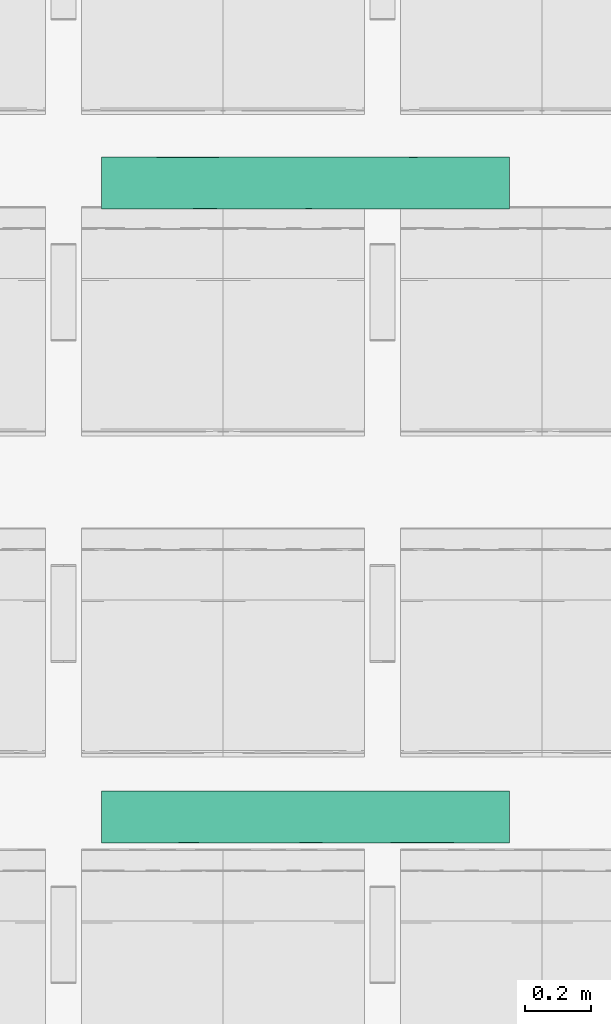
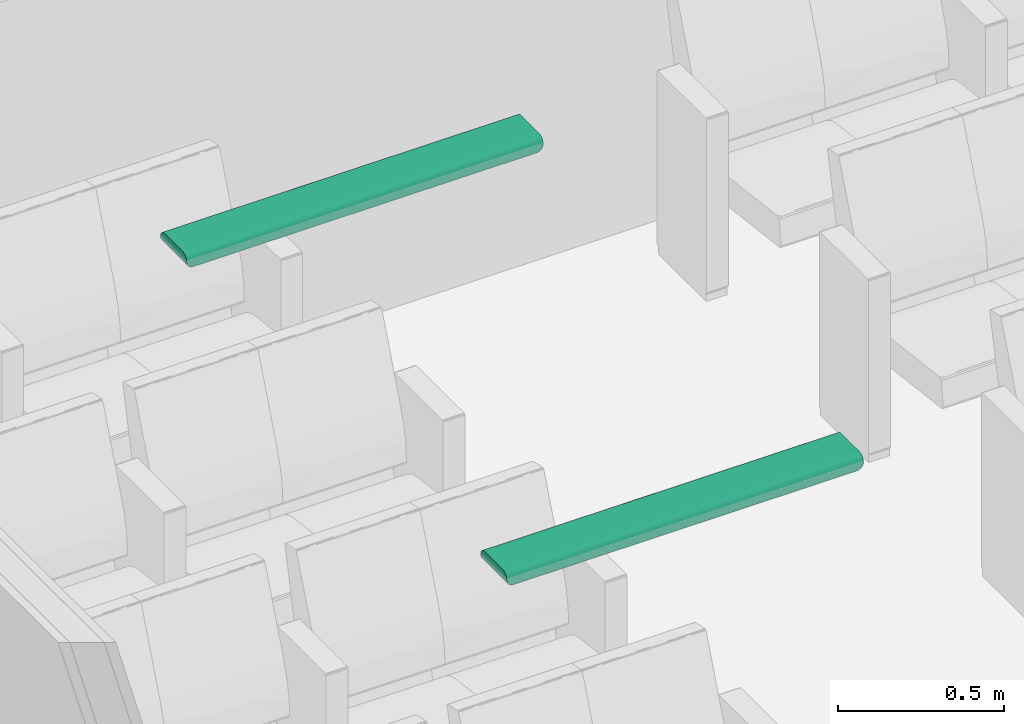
# One storey, part 60 of 155: 2 flow terminals.
"""IFC2X3 building model written with IfcOpenShell, lengths in metres."""

from ifc_helpers import new_model, entity, si_unit, converted_unit, derived_unit, direction, frame, origin, place, context, subcontext, project, spatial, faceted_brep, source, transform, mapped, material, material_list, type_object, type_shapes, element, save


model = new_model("IFC2X3")

# Units and contexts
model_context = context("Model", 3, precision=1e-05, world=origin(), true_north=direction((6.12303176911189e-17, 1.0)))
body_context = subcontext(model_context, "Body", "Model", "MODEL_VIEW")
ifc_project = project(units=[si_unit("LENGTHUNIT", "METRE"), si_unit("AREAUNIT", "SQUARE_METRE"), si_unit("VOLUMEUNIT", "CUBIC_METRE"), converted_unit("PLANEANGLEUNIT", "DEGREE", entity("IfcRatioMeasure", 0.0174532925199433), si_unit("PLANEANGLEUNIT", "RADIAN"), dimensions=[0, 0, 0, 0, 0, 0, 0]), si_unit("MASSUNIT", "GRAM", prefix="KILO"), derived_unit("MASSDENSITYUNIT", [(si_unit("MASSUNIT", "GRAM", prefix="KILO"), 1), (si_unit("LENGTHUNIT", "METRE"), -3)]), si_unit("TIMEUNIT", "SECOND"), si_unit("FREQUENCYUNIT", "HERTZ"), si_unit("THERMODYNAMICTEMPERATUREUNIT", "DEGREE_CELSIUS"), derived_unit("THERMALTRANSMITTANCEUNIT", [(si_unit("MASSUNIT", "GRAM", prefix="KILO"), 1), (si_unit("THERMODYNAMICTEMPERATUREUNIT", "KELVIN"), -1), (si_unit("TIMEUNIT", "SECOND"), -3)]), derived_unit("VOLUMETRICFLOWRATEUNIT", [(si_unit("LENGTHUNIT", "METRE"), 3), (si_unit("TIMEUNIT", "SECOND"), -1)]), si_unit("ELECTRICCURRENTUNIT", "AMPERE"), si_unit("ELECTRICVOLTAGEUNIT", "VOLT"), si_unit("POWERUNIT", "WATT"), si_unit("FORCEUNIT", "NEWTON", prefix="KILO"), si_unit("ILLUMINANCEUNIT", "LUX"), si_unit("LUMINOUSFLUXUNIT", "LUMEN"), si_unit("LUMINOUSINTENSITYUNIT", "CANDELA"), derived_unit("USERDEFINED", [(si_unit("MASSUNIT", "GRAM", prefix="KILO"), -1), (si_unit("LENGTHUNIT", "METRE"), -2), (si_unit("TIMEUNIT", "SECOND"), 3), (si_unit("LUMINOUSFLUXUNIT", "LUMEN"), 1)]), derived_unit("LINEARVELOCITYUNIT", [(si_unit("LENGTHUNIT", "METRE"), 1), (si_unit("TIMEUNIT", "SECOND"), -1)]), si_unit("PRESSUREUNIT", "PASCAL"), derived_unit("USERDEFINED", [(si_unit("LENGTHUNIT", "METRE"), -2), (si_unit("MASSUNIT", "GRAM", prefix="KILO"), 1), (si_unit("TIMEUNIT", "SECOND"), -2)])], contexts=[model_context])

# Site, building, storey, space
site_placement = place(None, frame((26.9889013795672, -17.5624287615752, 0.0)))
site = spatial("IfcSite", under=ifc_project, at=site_placement, Name="Default", CompositionType="ELEMENT")
building_placement = place(site_placement, origin())
building = spatial("IfcBuilding", under=site, at=building_placement, Name="C. C. L. Monsenhor Antônio Sampaio", CompositionType="ELEMENT")
storey_placement = place(building_placement, frame((0.0, 0.0, 1.19999999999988)))
storey = spatial("IfcBuildingStorey", under=building, at=storey_placement, Name="Nível 1.2", CompositionType="ELEMENT", Elevation=1.19999999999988)
space_placement = place(storey_placement, origin())
space = spatial("IfcSpace", under=storey, at=space_placement, Name="94", CompositionType="ELEMENT", InteriorOrExteriorSpace="INTERNAL")

# Flow terminals
ifc_material_1 = material(Name="glass - blue - t85")
ifc_material_2 = material(Name="metal - aluminium")
ifc_material_list_1 = material_list([ifc_material_1, ifc_material_2])
ifc_material_list_2 = material_list([ifc_material_1, ifc_material_2])
light_fixture_type = type_object("IfcLightFixtureType", Name="BCS460 W16L124 1xLED24/840 MLO-PC", PredefinedType="NOTDEFINED", material=ifc_material_list_2)
shared_shape = source(origin(), body_context, "Body", "Brep", [
    faceted_brep([(0.585000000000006, 0.0435000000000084, -0.0460000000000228), (0.585000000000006, -0.0434999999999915, -0.0460000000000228), (0.585000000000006, -0.0434999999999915, -0.0490000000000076), (0.585000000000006, 0.0435000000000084, -0.0490000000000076), (-0.584999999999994, 0.0435000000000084, -0.0460000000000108), (-0.584999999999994, 0.0435000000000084, -0.0489999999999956), (-0.584999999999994, -0.0434999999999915, -0.0489999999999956), (-0.584999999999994, -0.0434999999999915, -0.0460000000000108)], [[[0, 1, 2, 3]], [[4, 5, 6, 7]], [[3, 5, 4, 0]], [[2, 6, 5, 3]], [[1, 7, 6, 2]], [[0, 4, 7, 1]]]),
    faceted_brep([(-0.584999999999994, -0.0434999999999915, -0.0489999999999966), (0.585000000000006, -0.0434999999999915, -0.0490000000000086), (0.585000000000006, -0.0554999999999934, -0.0490000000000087), (0.417543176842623, -0.0554999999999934, -0.0490000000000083), (0.334912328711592, -0.0554999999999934, -0.0490000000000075), (0.209867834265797, -0.0554999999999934, -0.0490000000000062), (0.0848246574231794, -0.0554999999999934, -0.0490000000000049), (-0.0826321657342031, -0.0554999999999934, -0.0490000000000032), (-0.250087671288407, -0.0554999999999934, -0.0490000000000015), (-0.417543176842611, -0.0554999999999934, -0.0489999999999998), (-0.584999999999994, -0.0554999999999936, -0.0489999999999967), (-0.584999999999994, 0.0435000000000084, -0.0489999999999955), (-0.584999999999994, 0.0555000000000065, -0.0489999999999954), (-0.417543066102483, 0.0555000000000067, -0.0489999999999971), (-0.334913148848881, 0.0555000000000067, -0.048999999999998), (-0.209868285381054, 0.0555000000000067, -0.0489999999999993), (-0.0848248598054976, 0.0555000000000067, -0.0490000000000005), (0.0826306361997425, 0.0555000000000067, -0.0490000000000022), (0.250087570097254, 0.0555000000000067, -0.049000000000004), (0.417544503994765, 0.0555000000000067, -0.0490000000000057), (0.585000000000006, 0.0555000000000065, -0.0490000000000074), (0.585000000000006, 0.0435000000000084, -0.0490000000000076), (0.585000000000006, -0.0434999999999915, -0.0190000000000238), (0.585000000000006, 0.0435000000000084, -0.0190000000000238), (0.585000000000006, 0.0614528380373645, -0.0482162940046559), (0.585000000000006, 0.0670000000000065, -0.0459185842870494), (0.585000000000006, 0.0717634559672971, -0.0422634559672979), (0.585000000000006, 0.0754185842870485, -0.0375000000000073), (0.585000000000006, 0.077716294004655, -0.0319528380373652), (0.585000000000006, 0.0785000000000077, -0.0260000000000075), (0.585000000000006, 0.0785000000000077, 0.0), (0.585000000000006, -0.0784999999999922, 0.0), (0.585000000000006, -0.0784999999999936, -0.02600000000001), (0.585000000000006, -0.0777162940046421, -0.031952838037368), (0.585000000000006, -0.0754185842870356, -0.03750000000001), (0.585000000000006, -0.0717634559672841, -0.0422634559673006), (0.585000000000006, -0.0669999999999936, -0.0459185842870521), (0.585000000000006, -0.0614528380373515, -0.0482162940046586), (-0.584999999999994, 0.0435000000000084, -0.0190000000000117), (-0.584999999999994, -0.0434999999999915, -0.0190000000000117), (-0.584999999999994, -0.0614528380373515, -0.0482162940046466), (-0.584999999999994, -0.0669999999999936, -0.0459185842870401), (-0.584999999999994, -0.0717634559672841, -0.0422634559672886), (-0.584999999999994, -0.0754185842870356, -0.037499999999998), (-0.584999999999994, -0.0777162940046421, -0.031952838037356), (-0.584999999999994, -0.0784999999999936, -0.025999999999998), (-0.584999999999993, -0.0784999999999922, 0.0), (-0.584999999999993, 0.0785000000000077, 0.0), (-0.584999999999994, 0.0785000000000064, -0.0259999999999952), (-0.584999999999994, 0.077716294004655, -0.0319528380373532), (-0.584999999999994, 0.0754185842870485, -0.0374999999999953), (-0.584999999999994, 0.0717634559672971, -0.0422634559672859), (-0.584999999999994, 0.0670000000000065, -0.0459185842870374), (-0.584999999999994, 0.0614528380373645, -0.0482162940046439), (0.417543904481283, 0.0785000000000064, -0.0260000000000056), (0.334912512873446, 0.0785000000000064, -0.0260000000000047), (0.209868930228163, 0.0785000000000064, -0.0260000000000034), (0.0848250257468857, 0.0785000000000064, -0.0260000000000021), (-0.0826310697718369, 0.0785000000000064, -0.0260000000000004), (-0.250087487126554, 0.0785000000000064, -0.0259999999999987), (-0.417543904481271, 0.0785000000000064, -0.025999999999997), (-0.430283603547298, 0.073747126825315, -0.0400015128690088), (-0.39346878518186, 0.069501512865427, -0.0442471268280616), (-0.441987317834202, 0.0643017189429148, -0.0472492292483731), (-0.435801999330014, 0.0759760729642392, -0.0364752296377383), (0.43028360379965, 0.0695015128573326, -0.0442471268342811), (0.393468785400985, 0.0737471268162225, -0.0400015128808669), (-0.166359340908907, 0.0777768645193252, -0.0317220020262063), (-0.333815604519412, 0.078144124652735, -0.0300303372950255), (0.441987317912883, 0.0767492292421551, -0.0348017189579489), (0.376228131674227, 0.0780233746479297, -0.0306580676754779), (-0.0103058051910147, 0.0779837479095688, -0.0308457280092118), (0.147346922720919, 0.0778835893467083, -0.0312891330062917), (0.0846877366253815, 0.0752228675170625, -0.0378325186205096), (0.113930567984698, 0.0669406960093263, -0.0459527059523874), (0.259392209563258, 0.0628104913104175, -0.0478072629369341), (0.138751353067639, 0.0626656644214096, -0.0478552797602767), (-0.327642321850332, 0.0767492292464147, -0.0348017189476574), (-0.44845841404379, 0.0775260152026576, -0.0326222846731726), (0.274715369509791, 0.0767492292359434, -0.0348017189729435), (0.37104983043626, 0.0643017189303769, -0.0472492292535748), (0.333815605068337, 0.0596187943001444, -0.0486282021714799), (0.0893720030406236, 0.0707479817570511, -0.0432191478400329), (-0.0153938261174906, 0.0683034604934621, -0.0451068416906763), (-0.376228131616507, 0.0601580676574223, -0.0485233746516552), (0.0434325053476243, 0.059742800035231, -0.048605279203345), (0.218757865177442, 0.0695015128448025, -0.0442471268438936), (0.464656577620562, 0.0597129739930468, -0.0486108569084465), (0.199843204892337, 0.0732493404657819, -0.0406274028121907), (-0.274715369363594, 0.0643017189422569, -0.0472492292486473), (-0.115235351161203, 0.073747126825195, -0.0400015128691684), (-0.150791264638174, 0.070206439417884, -0.0436839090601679), (-0.272759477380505, 0.0724713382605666, -0.0415233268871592), (-0.00814072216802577, 0.0636892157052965, -0.0474927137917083), (-0.14734692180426, 0.0607891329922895, -0.0483835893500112), (-0.269938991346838, 0.0692956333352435, -0.0444032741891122), (-0.201904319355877, 0.0758204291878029, -0.0367740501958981), (-0.0663340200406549, 0.0763921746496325, -0.0356185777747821), (-0.139314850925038, 0.066006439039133, -0.046460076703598), (-0.430283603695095, -0.0695015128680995, -0.0442471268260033), (-0.393468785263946, -0.073747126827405, -0.0400015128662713), (-0.44198731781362, -0.0767492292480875, -0.0348017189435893), (-0.435801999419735, -0.06597522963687, -0.0464760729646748), (0.430283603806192, -0.0737471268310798, -0.0400015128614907), (0.393468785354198, -0.0695015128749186, -0.0442471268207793), (-0.166359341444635, -0.061222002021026, -0.0482768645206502), (-0.333815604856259, -0.0595303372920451, -0.0486441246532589), (0.441987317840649, -0.0643017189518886, -0.0472492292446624), (0.37622813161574, -0.0601580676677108, -0.0485233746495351), (-0.0103058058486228, -0.0603457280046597, -0.0484837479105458), (0.147346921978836, -0.0607891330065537, -0.0483835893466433), (0.0846877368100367, -0.0673325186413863, -0.0457228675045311), (0.113930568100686, -0.0754527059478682, -0.0374406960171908), (0.259392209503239, -0.0773072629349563, -0.0333104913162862), (0.138751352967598, -0.0773552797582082, -0.0331656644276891), (-0.327642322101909, -0.0643017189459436, -0.047249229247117), (-0.448458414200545, -0.062122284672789, -0.048026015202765), (-0.417543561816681, -0.0784999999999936, -0.0259999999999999), (0.274715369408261, -0.0643017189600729, -0.0472492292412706), (0.371049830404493, -0.0767492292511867, -0.0348017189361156), (0.333815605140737, -0.0781282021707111, -0.0301187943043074), (0.250087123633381, -0.0784999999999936, -0.0260000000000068), (0.0893720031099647, -0.0727191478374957, -0.041247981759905), (-0.0153938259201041, -0.074606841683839, -0.0388034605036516), (-0.376228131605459, -0.0780233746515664, -0.0306580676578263), (0.0826306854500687, -0.0784999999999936, -0.026000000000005), (-0.0848257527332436, -0.0784999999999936, -0.0260000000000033), (0.0434325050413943, -0.0781052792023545, -0.030242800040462), (0.417543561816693, -0.0784999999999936, -0.0260000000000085), (0.21875786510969, -0.0737471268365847, -0.0400015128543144), (0.464656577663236, -0.0781108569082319, -0.0302129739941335), (0.19984320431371, -0.0701274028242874, -0.0437493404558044), (-0.274715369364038, -0.0767492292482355, -0.0348017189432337), (-0.115235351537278, -0.0695015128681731, -0.0442471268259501), (-0.150791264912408, -0.0731839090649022, -0.0407064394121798), (-0.209869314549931, -0.0784999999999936, -0.026000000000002), (-0.334912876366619, -0.0784999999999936, -0.0260000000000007), (-0.272759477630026, -0.071023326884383, -0.0429713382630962), (-0.00814072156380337, -0.0769927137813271, -0.0341892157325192), (-0.147346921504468, -0.0778835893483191, -0.03128913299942), (-0.269938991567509, -0.0739032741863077, -0.0397956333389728), (-0.201904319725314, -0.0662740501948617, -0.0463204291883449), (-0.0663340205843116, -0.0651185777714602, -0.0468921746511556), (-0.139314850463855, -0.0759600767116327, -0.0365064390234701)], [[[0, 1, 2, 3, 4, 5, 6, 7, 8, 9, 10]], [[11, 12, 13, 14, 15, 16, 17, 18, 19, 20, 21]], [[22, 23, 21, 20, 24, 25, 26, 27, 28, 29, 30, 31, 32, 33, 34, 35, 36, 37, 2, 1]], [[12, 11, 38, 39, 0, 10, 40, 41, 42, 43, 44, 45, 46, 47, 48, 49, 50, 51, 52, 53]], [[47, 30, 29, 54, 55, 56, 57, 58, 59, 60, 48]], [[61, 51, 50]], [[62, 51, 61]], [[51, 62, 52]], [[62, 63, 52]], [[63, 53, 52]], [[61, 50, 64]], [[26, 65, 66]], [[26, 25, 65]], [[54, 29, 28]], [[67, 68, 59]], [[69, 70, 28]], [[71, 72, 73]], [[74, 75, 76]], [[26, 66, 27]], [[77, 78, 68]], [[13, 12, 53]], [[69, 27, 66]], [[79, 73, 72]], [[24, 80, 25]], [[70, 79, 72]], [[69, 28, 27]], [[75, 81, 18]], [[82, 74, 83]], [[63, 84, 53]], [[17, 16, 85]], [[19, 18, 81]], [[75, 74, 86]], [[87, 81, 80]], [[73, 79, 88]], [[70, 56, 55, 54]], [[80, 86, 65]], [[89, 63, 62]], [[90, 83, 91]], [[84, 15, 14, 13]], [[61, 77, 92]], [[59, 68, 60]], [[78, 49, 48]], [[20, 87, 24]], [[93, 76, 85]], [[66, 65, 86]], [[65, 25, 80]], [[62, 61, 92]], [[77, 64, 78]], [[92, 90, 91]], [[89, 94, 84]], [[28, 70, 54]], [[79, 69, 66]], [[53, 84, 13]], [[91, 95, 92]], [[96, 90, 92]], [[56, 72, 57]], [[70, 69, 79]], [[70, 72, 56]], [[67, 59, 58]], [[71, 67, 58]], [[71, 58, 57]], [[83, 90, 82]], [[88, 82, 73]], [[96, 97, 90]], [[71, 73, 97]], [[15, 94, 16]], [[84, 63, 89]], [[84, 94, 15]], [[98, 83, 93]], [[83, 98, 91]], [[18, 17, 76]], [[62, 92, 95]], [[98, 95, 91]], [[98, 94, 89]], [[74, 76, 93]], [[93, 94, 98]], [[85, 16, 94]], [[19, 81, 87]], [[80, 81, 75]], [[19, 87, 20]], [[24, 87, 80]], [[78, 48, 60]], [[77, 68, 67]], [[68, 78, 60]], [[49, 78, 50]], [[78, 64, 50]], [[64, 77, 61]], [[94, 93, 85]], [[85, 76, 17]], [[97, 67, 71]], [[72, 71, 57]], [[77, 67, 96]], [[90, 97, 73]], [[97, 96, 67]], [[77, 96, 92]], [[80, 75, 86]], [[76, 75, 18]], [[95, 89, 62]], [[89, 95, 98]], [[86, 74, 82]], [[83, 74, 93]], [[86, 82, 88]], [[73, 82, 90]], [[88, 66, 86]], [[66, 88, 79]], [[99, 42, 41]], [[100, 42, 99]], [[42, 100, 43]], [[100, 101, 43]], [[101, 44, 43]], [[99, 41, 102]], [[35, 103, 104]], [[35, 34, 103]], [[3, 2, 37]], [[105, 106, 8]], [[107, 108, 37]], [[109, 110, 111]], [[112, 113, 114]], [[35, 104, 36]], [[115, 116, 106]], [[117, 45, 44]], [[107, 36, 104]], [[118, 111, 110]], [[33, 119, 34]], [[108, 118, 110]], [[107, 37, 36]], [[113, 120, 121]], [[122, 112, 123]], [[101, 124, 44]], [[125, 126, 127]], [[128, 121, 120]], [[113, 112, 129]], [[130, 120, 119]], [[111, 118, 131]], [[108, 5, 4, 3]], [[119, 129, 103]], [[132, 101, 100]], [[133, 123, 134]], [[124, 135, 136, 117]], [[99, 115, 137]], [[8, 106, 9]], [[116, 40, 10]], [[32, 130, 33]], [[138, 114, 127]], [[104, 103, 129]], [[103, 34, 119]], [[100, 99, 137]], [[115, 102, 116]], [[137, 133, 134]], [[132, 139, 124]], [[37, 108, 3]], [[118, 107, 104]], [[44, 124, 117]], [[134, 140, 137]], [[141, 133, 137]], [[5, 110, 6]], [[108, 107, 118]], [[108, 110, 5]], [[105, 8, 7]], [[109, 105, 7]], [[109, 7, 6]], [[123, 133, 122]], [[131, 122, 111]], [[141, 142, 133]], [[109, 111, 142]], [[135, 139, 126]], [[124, 101, 132]], [[124, 139, 135]], [[143, 123, 138]], [[123, 143, 134]], [[121, 125, 114]], [[100, 137, 140]], [[143, 140, 134]], [[143, 139, 132]], [[112, 114, 138]], [[138, 139, 143]], [[127, 126, 139]], [[128, 120, 130]], [[119, 120, 113]], [[128, 130, 32]], [[33, 130, 119]], [[116, 10, 9]], [[115, 106, 105]], [[106, 116, 9]], [[40, 116, 41]], [[116, 102, 41]], [[102, 115, 99]], [[139, 138, 127]], [[127, 114, 125]], [[142, 105, 109]], [[110, 109, 6]], [[115, 105, 141]], [[133, 142, 111]], [[142, 141, 105]], [[115, 141, 137]], [[119, 113, 129]], [[114, 113, 121]], [[140, 132, 100]], [[132, 140, 143]], [[129, 112, 122]], [[123, 112, 138]], [[129, 122, 131]], [[111, 122, 133]], [[131, 104, 129]], [[104, 131, 118]], [[31, 46, 45, 117, 136, 135, 126, 125, 121, 128, 32]], [[46, 31, 30, 47]], [[21, 23, 38, 11]], [[22, 1, 0, 39]], [[23, 22, 39, 38]]]),
    faceted_brep([(0.597000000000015, 0.0785000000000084, 0.0), (0.602952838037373, 0.0785000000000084, -0.000783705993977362), (0.608500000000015, 0.0785000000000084, -0.00308141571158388), (0.613263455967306, 0.0785000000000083, -0.00673654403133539), (0.616918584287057, 0.0785000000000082, -0.011499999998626), (0.619216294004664, 0.0785000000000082, -0.017047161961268), (0.620000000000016, 0.0785000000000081, -0.0229999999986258), (0.620000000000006, 0.0785000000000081, -0.0259999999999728), (0.585000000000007, 0.0785000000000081, -0.0259999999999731), (0.585000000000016, 0.0785000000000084, 0.0), (0.619216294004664, -0.0784999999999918, -0.0170471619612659), (0.616918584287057, -0.0784999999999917, -0.0114999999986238), (0.613263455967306, -0.0784999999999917, -0.00673654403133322), (0.608500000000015, -0.0784999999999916, -0.00308141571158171), (0.602952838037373, -0.0784999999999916, -0.000783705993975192), (0.597000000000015, -0.0784999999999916, 0.0), (0.585000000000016, -0.0784999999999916, 0.0), (0.585000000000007, -0.0784999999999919, -0.0260000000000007), (0.620000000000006, -0.0784999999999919, -0.0260000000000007), (0.620000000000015, -0.0784999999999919, -0.0229999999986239), (0.620000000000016, 0.0669999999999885, -0.0459185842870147), (0.620000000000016, 0.0717634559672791, -0.0422634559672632), (0.620000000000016, 0.0754185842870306, -0.0374999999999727), (0.620000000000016, 0.0777162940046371, -0.0319528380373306), (0.620000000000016, -0.0777162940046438, -0.0319528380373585), (0.620000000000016, -0.0754185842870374, -0.0375000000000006), (0.620000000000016, -0.071763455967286, -0.0422634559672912), (0.620000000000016, -0.0669999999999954, -0.0459185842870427), (0.620000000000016, -0.0614528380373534, -0.0482162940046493), (0.620000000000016, -0.0554999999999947, -0.0489999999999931), (0.620000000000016, 0.0554999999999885, -0.0489999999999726), (0.620000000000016, 0.0614528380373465, -0.0482162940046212), (0.585000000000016, 0.0554999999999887, -0.048999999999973), (0.585000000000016, -0.0554999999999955, -0.0490000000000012), (0.585000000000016, -0.0614528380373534, -0.0482162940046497), (0.585000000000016, -0.0669999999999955, -0.0459185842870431), (0.585000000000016, -0.071763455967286, -0.0422634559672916), (0.585000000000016, -0.0754185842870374, -0.0375000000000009), (0.585000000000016, -0.0777162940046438, -0.0319528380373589), (0.585000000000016, 0.0777162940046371, -0.031952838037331), (0.585000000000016, 0.0754185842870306, -0.037499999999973), (0.585000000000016, 0.0717634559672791, -0.0422634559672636), (0.585000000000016, 0.0669999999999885, -0.0459185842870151), (0.585000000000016, 0.0614528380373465, -0.0482162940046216)], [[[0, 1, 2, 3, 4, 5, 6, 7, 8, 9]], [[10, 11, 12, 13, 14, 15, 16, 17, 18, 19]], [[20, 21, 22, 23, 7, 6, 19, 18, 24, 25, 26, 27, 28, 29, 30, 31]], [[32, 33, 34, 35, 36, 37, 38, 17, 16, 9, 8, 39, 40, 41, 42, 43]], [[16, 15, 0, 9]], [[11, 10, 5, 4]], [[12, 11, 4, 3]], [[6, 5, 10, 19]], [[14, 13, 2, 1]], [[15, 14, 1, 0]], [[2, 13, 12, 3]], [[43, 31, 30, 32]], [[43, 42, 20, 31]], [[21, 20, 42, 41]], [[23, 22, 40, 39]], [[7, 23, 39, 8]], [[40, 22, 21, 41]], [[29, 33, 32, 30]], [[25, 24, 38, 37]], [[26, 25, 37, 36]], [[17, 38, 24, 18]], [[28, 27, 35, 34]], [[29, 28, 34, 33]], [[35, 27, 26, 36]]]),
    faceted_brep([(-0.608499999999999, 0.0785000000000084, -0.00308141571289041), (-0.602952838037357, 0.0785000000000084, -0.000783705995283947), (-0.597, 0.0785000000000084, 0.0), (-0.584999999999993, 0.0785000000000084, 0.0), (-0.584999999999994, 0.0785000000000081, -0.0260000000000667), (-0.619999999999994, 0.0785000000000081, -0.0260000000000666), (-0.619999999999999, 0.0785000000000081, -0.0229999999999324), (-0.619216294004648, 0.0785000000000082, -0.0170471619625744), (-0.616918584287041, 0.0785000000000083, -0.0114999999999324), (-0.61326345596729, 0.0785000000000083, -0.00673654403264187), (-0.584999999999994, -0.0784999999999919, -0.0260000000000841), (-0.584999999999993, -0.0784999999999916, 0.0), (-0.596999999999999, -0.0784999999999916, 0.0), (-0.602952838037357, -0.0784999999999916, -0.000783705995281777), (-0.608499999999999, -0.0784999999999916, -0.00308141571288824), (-0.61326345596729, -0.0784999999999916, -0.0067365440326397), (-0.616918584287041, -0.0784999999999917, -0.0114999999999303), (-0.619216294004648, -0.0784999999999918, -0.0170471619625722), (-0.619999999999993, -0.0784999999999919, -0.0229999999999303), (-0.619999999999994, -0.0784999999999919, -0.0260000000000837), (-0.619999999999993, 0.0777162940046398, -0.0319528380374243), (-0.619999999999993, 0.0754185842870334, -0.0375000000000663), (-0.619999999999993, 0.071763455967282, -0.042263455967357), (-0.619999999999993, 0.0669999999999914, -0.0459185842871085), (-0.619999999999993, 0.0614528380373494, -0.048216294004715), (-0.619999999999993, 0.0554999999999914, -0.0490000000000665), (-0.619999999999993, -0.0554999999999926, -0.0490000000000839), (-0.619999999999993, -0.0614528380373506, -0.0482162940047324), (-0.619999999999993, -0.0669999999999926, -0.0459185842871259), (-0.619999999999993, -0.0717634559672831, -0.0422634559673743), (-0.619999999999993, -0.0754185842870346, -0.0375000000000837), (-0.619999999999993, -0.0777162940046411, -0.0319528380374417), (-0.584999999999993, 0.0614528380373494, -0.0482162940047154), (-0.584999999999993, 0.0669999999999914, -0.0459185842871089), (-0.584999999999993, 0.071763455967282, -0.0422634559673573), (-0.584999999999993, 0.0754185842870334, -0.0375000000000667), (-0.584999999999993, 0.0777162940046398, -0.0319528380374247), (-0.584999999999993, -0.0777162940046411, -0.0319528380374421), (-0.584999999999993, -0.0754185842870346, -0.0375000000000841), (-0.584999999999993, -0.0717634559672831, -0.0422634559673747), (-0.584999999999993, -0.0669999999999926, -0.0459185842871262), (-0.584999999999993, -0.0614528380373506, -0.0482162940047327), (-0.584999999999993, -0.0554999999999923, -0.0490000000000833), (-0.584999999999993, 0.0554999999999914, -0.0490000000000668)], [[[0, 1, 2, 3, 4, 5, 6, 7, 8, 9]], [[10, 11, 12, 13, 14, 15, 16, 17, 18, 19]], [[5, 20, 21, 22, 23, 24, 25, 26, 27, 28, 29, 30, 31, 19, 18, 6]], [[32, 33, 34, 35, 36, 4, 3, 11, 10, 37, 38, 39, 40, 41, 42, 43]], [[12, 11, 3, 2]], [[14, 13, 1, 0]], [[15, 14, 0, 9]], [[2, 1, 13, 12]], [[17, 16, 8, 7]], [[18, 17, 7, 6]], [[8, 16, 15, 9]], [[22, 21, 35, 34]], [[36, 20, 5, 4]], [[21, 20, 36, 35]], [[24, 23, 33, 32]], [[25, 24, 32, 43]], [[33, 23, 22, 34]], [[26, 25, 43, 42]], [[28, 27, 41, 40]], [[29, 28, 40, 39]], [[42, 41, 27, 26]], [[31, 30, 38, 37]], [[19, 31, 37, 10]], [[38, 30, 29, 39]]]),
])
type_shapes(light_fixture_type, [shared_shape])
flow_terminal_1_placement = place(space_placement, frame((-11.990552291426, -14.9270663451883, 2.8), z_axis=(0.0, 0.0, -1.0), x_axis=(-1.0, 0.0, 0.0)))
element("IfcFlowTerminal", 1, at=flow_terminal_1_placement, inside=space, type_object=light_fixture_type, material=ifc_material_list_1, Name="63_PHILIPS_smartform-LED-surface_f:BCS460 W16L124 1xLED24/840 MLO-PC", ObjectType="BCS460 W16L124 1xLED24/840 MLO-PC", context=body_context, shape_type="MappedRepresentation", body=[
    mapped(shared_shape, transform((0.0, 0.0, 0.0), scale=1.0)),
])
ifc_material_list_3 = material_list([ifc_material_1, ifc_material_2])
flow_terminal_2_placement = place(space_placement, frame((-11.990552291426, -12.9990663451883, 2.8), z_axis=(0.0, 0.0, -1.0), x_axis=(-1.0, 0.0, 0.0)))
element("IfcFlowTerminal", 2, at=flow_terminal_2_placement, inside=space, type_object=light_fixture_type, material=ifc_material_list_3, Name="63_PHILIPS_smartform-LED-surface_f:BCS460 W16L124 1xLED24/840 MLO-PC", ObjectType="BCS460 W16L124 1xLED24/840 MLO-PC", context=body_context, shape_type="MappedRepresentation", body=[
    mapped(shared_shape, transform((0.0, 0.0, 0.0), scale=1.0)),
])

save(model, "model.ifc")
